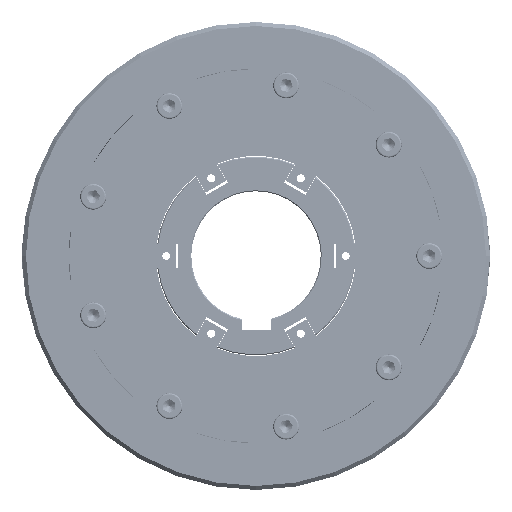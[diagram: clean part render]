
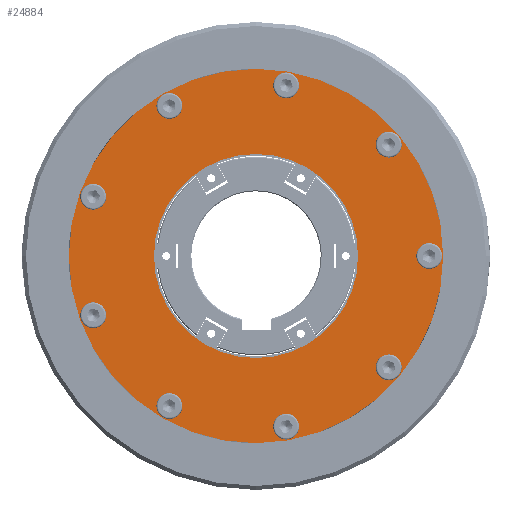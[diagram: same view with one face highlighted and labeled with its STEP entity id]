
A CAD part, left-side view. The second image highlights one B-rep face of the part: STEP entity #24884.
In plain terms, the highlighted planar face has unit normal (-1, 0, 0).
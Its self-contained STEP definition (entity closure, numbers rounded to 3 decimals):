
#1182=FACE_BOUND('',#6183,.T.);
#1183=FACE_BOUND('',#6184,.T.);
#1184=FACE_BOUND('',#6185,.T.);
#1185=FACE_BOUND('',#6186,.T.);
#1186=FACE_BOUND('',#6187,.T.);
#1187=FACE_BOUND('',#6188,.T.);
#1188=FACE_BOUND('',#6189,.T.);
#1189=FACE_BOUND('',#6190,.T.);
#1190=FACE_BOUND('',#6191,.T.);
#1191=FACE_BOUND('',#6192,.T.);
#1934=CIRCLE('',#25500,6.5);
#1937=CIRCLE('',#25513,6.5);
#1940=CIRCLE('',#25526,6.5);
#1943=CIRCLE('',#25539,6.5);
#2663=CIRCLE('',#26935,51.25);
#2815=CIRCLE('',#27229,94.);
#2911=CIRCLE('',#27416,6.5);
#2912=CIRCLE('',#27417,6.5);
#2913=CIRCLE('',#27418,6.5);
#2914=CIRCLE('',#27419,6.5);
#2915=CIRCLE('',#27420,6.5);
#4240=FACE_OUTER_BOUND('',#6182,.T.);
#6182=EDGE_LOOP('',(#21000));
#6183=EDGE_LOOP('',(#21001));
#6184=EDGE_LOOP('',(#21002));
#6185=EDGE_LOOP('',(#21003));
#6186=EDGE_LOOP('',(#21004));
#6187=EDGE_LOOP('',(#21005));
#6188=EDGE_LOOP('',(#21006));
#6189=EDGE_LOOP('',(#21007));
#6190=EDGE_LOOP('',(#21008));
#6191=EDGE_LOOP('',(#21009));
#6192=EDGE_LOOP('',(#21010));
#9845=VERTEX_POINT('',#63694);
#9860=VERTEX_POINT('',#63752);
#9875=VERTEX_POINT('',#63810);
#9890=VERTEX_POINT('',#63868);
#11119=VERTEX_POINT('',#79770);
#11348=VERTEX_POINT('',#84919);
#11496=VERTEX_POINT('',#85433);
#11497=VERTEX_POINT('',#85435);
#11498=VERTEX_POINT('',#85437);
#11499=VERTEX_POINT('',#85439);
#11500=VERTEX_POINT('',#85441);
#12437=EDGE_CURVE('',#9845,#9845,#1934,.T.);
#12458=EDGE_CURVE('',#9860,#9860,#1937,.T.);
#12479=EDGE_CURVE('',#9875,#9875,#1940,.T.);
#12500=EDGE_CURVE('',#9890,#9890,#1943,.T.);
#14201=EDGE_CURVE('',#11119,#11119,#2663,.T.);
#14522=EDGE_CURVE('',#11348,#11348,#2815,.T.);
#14716=EDGE_CURVE('',#11496,#11496,#2911,.T.);
#14717=EDGE_CURVE('',#11497,#11497,#2912,.T.);
#14718=EDGE_CURVE('',#11498,#11498,#2913,.T.);
#14719=EDGE_CURVE('',#11499,#11499,#2914,.T.);
#14720=EDGE_CURVE('',#11500,#11500,#2915,.T.);
#21000=ORIENTED_EDGE('',*,*,#14522,.T.);
#21001=ORIENTED_EDGE('',*,*,#14716,.T.);
#21002=ORIENTED_EDGE('',*,*,#12437,.T.);
#21003=ORIENTED_EDGE('',*,*,#14717,.T.);
#21004=ORIENTED_EDGE('',*,*,#12458,.T.);
#21005=ORIENTED_EDGE('',*,*,#14718,.T.);
#21006=ORIENTED_EDGE('',*,*,#12479,.T.);
#21007=ORIENTED_EDGE('',*,*,#14719,.T.);
#21008=ORIENTED_EDGE('',*,*,#12500,.T.);
#21009=ORIENTED_EDGE('',*,*,#14720,.T.);
#21010=ORIENTED_EDGE('',*,*,#14201,.T.);
#22165=PLANE('',#27415);
#24884=ADVANCED_FACE('',(#4240,#1182,#1183,#1184,#1185,#1186,#1187,#1188,
#1189,#1190,#1191),#22165,.T.);
#25500=AXIS2_PLACEMENT_3D('',#63695,#28633,#28634);
#25513=AXIS2_PLACEMENT_3D('',#63753,#28671,#28672);
#25526=AXIS2_PLACEMENT_3D('',#63811,#28709,#28710);
#25539=AXIS2_PLACEMENT_3D('',#63869,#28747,#28748);
#26935=AXIS2_PLACEMENT_3D('',#79771,#32420,#32421);
#27229=AXIS2_PLACEMENT_3D('',#84920,#33137,#33138);
#27415=AXIS2_PLACEMENT_3D('',#85432,#33601,#33602);
#27416=AXIS2_PLACEMENT_3D('',#85434,#33603,#33604);
#27417=AXIS2_PLACEMENT_3D('',#85436,#33605,#33606);
#27418=AXIS2_PLACEMENT_3D('',#85438,#33607,#33608);
#27419=AXIS2_PLACEMENT_3D('',#85440,#33609,#33610);
#27420=AXIS2_PLACEMENT_3D('',#85442,#33611,#33612);
#28633=DIRECTION('center_axis',(1.,0.,0.));
#28634=DIRECTION('ref_axis',(0.,0.174,-0.985));
#28671=DIRECTION('center_axis',(1.,0.,0.));
#28672=DIRECTION('ref_axis',(0.,-0.94,-0.342));
#28709=DIRECTION('center_axis',(1.,0.,0.));
#28710=DIRECTION('ref_axis',(0.,-0.5,0.866));
#28747=DIRECTION('center_axis',(1.,0.,0.));
#28748=DIRECTION('ref_axis',(0.,0.766,0.643));
#32420=DIRECTION('center_axis',(1.,0.,0.));
#32421=DIRECTION('ref_axis',(0.,0.342,0.94));
#33137=DIRECTION('center_axis',(-1.,0.,0.));
#33138=DIRECTION('ref_axis',(0.,0.342,0.94));
#33601=DIRECTION('center_axis',(-1.,0.,0.));
#33602=DIRECTION('ref_axis',(0.,0.342,0.94));
#33603=DIRECTION('center_axis',(1.,0.,0.));
#33604=DIRECTION('ref_axis',(0.,0.766,-0.643));
#33605=DIRECTION('center_axis',(1.,0.,0.));
#33606=DIRECTION('ref_axis',(0.,-0.5,-0.866));
#33607=DIRECTION('center_axis',(1.,0.,0.));
#33608=DIRECTION('ref_axis',(0.,-0.94,0.342));
#33609=DIRECTION('center_axis',(1.,0.,0.));
#33610=DIRECTION('ref_axis',(0.,0.174,0.985));
#33611=DIRECTION('center_axis',(1.,0.,0.));
#33612=DIRECTION('ref_axis',(0.,1.,0.));
#63694=CARTESIAN_POINT('',(-96.,-65.517,-62.324));
#63695=CARTESIAN_POINT('Origin',(-96.,-66.646,-55.923));
#63752=CARTESIAN_POINT('',(-96.,-72.754,53.699));
#63753=CARTESIAN_POINT('Origin',(-96.,-66.646,55.923));
#63810=CARTESIAN_POINT('',(-96.,40.25,80.973));
#63811=CARTESIAN_POINT('Origin',(-96.,43.5,75.344));
#63868=CARTESIAN_POINT('',(-96.,86.733,-25.578));
#63869=CARTESIAN_POINT('Origin',(-96.,81.753,-29.756));
#79770=CARTESIAN_POINT('',(-96.,17.529,48.159));
#79771=CARTESIAN_POINT('Origin',(-96.,0.,0.));
#84919=CARTESIAN_POINT('',(-96.,-32.15,-88.331));
#84920=CARTESIAN_POINT('Origin',(-96.,0.,0.));
#85432=CARTESIAN_POINT('Origin',(-96.,0.,0.));
#85433=CARTESIAN_POINT('',(-96.,-10.128,-89.856));
#85434=CARTESIAN_POINT('Origin',(-96.,-15.107,-85.678));
#85435=CARTESIAN_POINT('',(-96.,-90.25,-5.629));
#85436=CARTESIAN_POINT('Origin',(-96.,-87.,0.));
#85437=CARTESIAN_POINT('',(-96.,-21.215,87.901));
#85438=CARTESIAN_POINT('Origin',(-96.,-15.107,85.678));
#85439=CARTESIAN_POINT('',(-96.,82.882,36.157));
#85440=CARTESIAN_POINT('Origin',(-96.,81.753,29.756));
#85441=CARTESIAN_POINT('',(-96.,50.,-75.344));
#85442=CARTESIAN_POINT('Origin',(-96.,43.5,-75.344));
